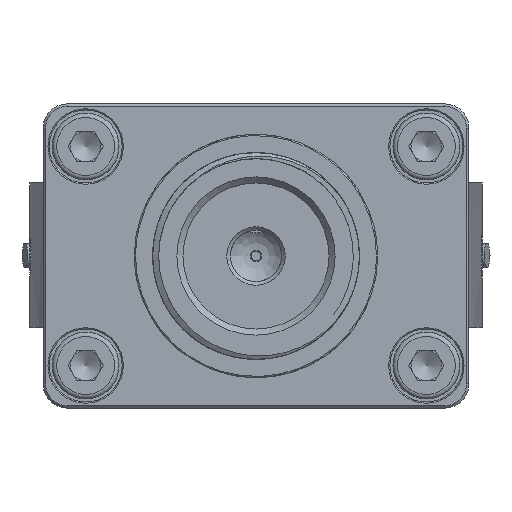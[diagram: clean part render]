
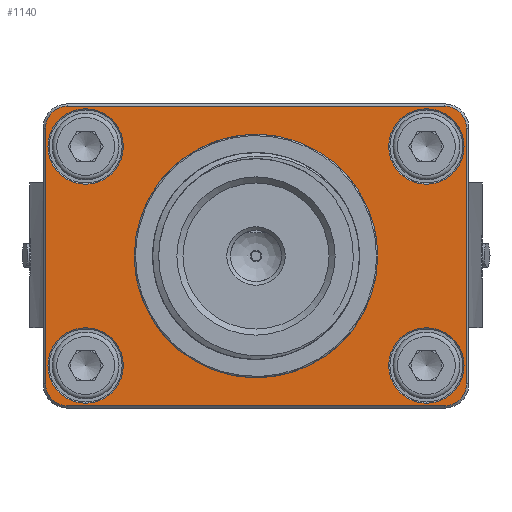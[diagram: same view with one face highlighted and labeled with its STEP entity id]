
A CAD part, front view. The second image highlights one B-rep face of the part: STEP entity #1140.
In plain terms, the highlighted planar face has unit normal (0, -1, 0).
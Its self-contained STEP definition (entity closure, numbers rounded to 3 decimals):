
#1140=ADVANCED_FACE('',(#1814,#1815,#1816,#1817,#1818,#1819),#1522,.T.);
#1522=PLANE('',#8598);
#1814=FACE_BOUND('',#2585,.T.);
#1815=FACE_BOUND('',#2586,.T.);
#1816=FACE_BOUND('',#2587,.T.);
#1817=FACE_BOUND('',#2588,.T.);
#1818=FACE_BOUND('',#2589,.T.);
#1819=FACE_BOUND('',#2590,.T.);
#2585=EDGE_LOOP('',(#4885,#4886,#4887,#4888,#4889,#4890,#4891,#4892));
#2586=EDGE_LOOP('',(#4893));
#2587=EDGE_LOOP('',(#4894));
#2588=EDGE_LOOP('',(#4895));
#2589=EDGE_LOOP('',(#4896));
#2590=EDGE_LOOP('',(#4897));
#3214=CIRCLE('',#8584,10.);
#3215=CIRCLE('',#8586,3.1);
#3216=CIRCLE('',#8588,3.1);
#3217=CIRCLE('',#8590,3.1);
#3218=CIRCLE('',#8592,3.1);
#3219=CIRCLE('',#8594,1.8);
#3220=CIRCLE('',#8595,1.8);
#3221=CIRCLE('',#8596,1.8);
#3222=CIRCLE('',#8597,1.8);
#4885=ORIENTED_EDGE('',*,*,#6849,.T.);
#4886=ORIENTED_EDGE('',*,*,#6850,.T.);
#4887=ORIENTED_EDGE('',*,*,#6851,.T.);
#4888=ORIENTED_EDGE('',*,*,#6852,.T.);
#4889=ORIENTED_EDGE('',*,*,#6853,.T.);
#4890=ORIENTED_EDGE('',*,*,#6854,.T.);
#4891=ORIENTED_EDGE('',*,*,#6855,.T.);
#4892=ORIENTED_EDGE('',*,*,#6856,.T.);
#4893=ORIENTED_EDGE('',*,*,#6848,.T.);
#4894=ORIENTED_EDGE('',*,*,#6847,.T.);
#4895=ORIENTED_EDGE('',*,*,#6846,.T.);
#4896=ORIENTED_EDGE('',*,*,#6845,.T.);
#4897=ORIENTED_EDGE('',*,*,#6844,.T.);
#5888=VERTEX_POINT('',#14850);
#5889=VERTEX_POINT('',#14853);
#5890=VERTEX_POINT('',#14856);
#5891=VERTEX_POINT('',#14859);
#5892=VERTEX_POINT('',#14862);
#5893=VERTEX_POINT('',#14865);
#5894=VERTEX_POINT('',#14866);
#5895=VERTEX_POINT('',#14868);
#5896=VERTEX_POINT('',#14870);
#5897=VERTEX_POINT('',#14872);
#5898=VERTEX_POINT('',#14874);
#5899=VERTEX_POINT('',#14876);
#5900=VERTEX_POINT('',#14878);
#6844=EDGE_CURVE('',#5888,#5888,#3214,.T.);
#6845=EDGE_CURVE('',#5889,#5889,#3215,.T.);
#6846=EDGE_CURVE('',#5890,#5890,#3216,.T.);
#6847=EDGE_CURVE('',#5891,#5891,#3217,.T.);
#6848=EDGE_CURVE('',#5892,#5892,#3218,.T.);
#6849=EDGE_CURVE('',#5893,#5894,#7483,.T.);
#6850=EDGE_CURVE('',#5894,#5895,#3219,.T.);
#6851=EDGE_CURVE('',#5895,#5896,#7484,.T.);
#6852=EDGE_CURVE('',#5896,#5897,#3220,.T.);
#6853=EDGE_CURVE('',#5897,#5898,#7485,.T.);
#6854=EDGE_CURVE('',#5898,#5899,#3221,.T.);
#6855=EDGE_CURVE('',#5899,#5900,#7486,.T.);
#6856=EDGE_CURVE('',#5900,#5893,#3222,.T.);
#7483=LINE('',#14864,#7923);
#7484=LINE('',#14869,#7924);
#7485=LINE('',#14873,#7925);
#7486=LINE('',#14877,#7926);
#7923=VECTOR('',#10608,1.);
#7924=VECTOR('',#10611,1.);
#7925=VECTOR('',#10614,1.);
#7926=VECTOR('',#10617,1.);
#8584=AXIS2_PLACEMENT_3D('',#14849,#10588,#10589);
#8586=AXIS2_PLACEMENT_3D('',#14852,#10592,#10593);
#8588=AXIS2_PLACEMENT_3D('',#14855,#10596,#10597);
#8590=AXIS2_PLACEMENT_3D('',#14858,#10600,#10601);
#8592=AXIS2_PLACEMENT_3D('',#14861,#10604,#10605);
#8594=AXIS2_PLACEMENT_3D('',#14867,#10609,#10610);
#8595=AXIS2_PLACEMENT_3D('',#14871,#10612,#10613);
#8596=AXIS2_PLACEMENT_3D('',#14875,#10615,#10616);
#8597=AXIS2_PLACEMENT_3D('',#14879,#10618,#10619);
#8598=AXIS2_PLACEMENT_3D('',#14880,#10620,#10621);
#10588=DIRECTION('',(0.,1.,0.));
#10589=DIRECTION('',(1.,0.,0.));
#10592=DIRECTION('',(0.,1.,0.));
#10593=DIRECTION('',(0.,0.,-1.));
#10596=DIRECTION('',(0.,1.,0.));
#10597=DIRECTION('',(0.,0.,-1.));
#10600=DIRECTION('',(0.,1.,0.));
#10601=DIRECTION('',(0.,0.,-1.));
#10604=DIRECTION('',(0.,1.,0.));
#10605=DIRECTION('',(0.,0.,-1.));
#10608=DIRECTION('',(-1.,0.,0.));
#10609=DIRECTION('',(0.,-1.,0.));
#10610=DIRECTION('',(0.,0.,-1.));
#10611=DIRECTION('',(0.,0.,-1.));
#10612=DIRECTION('',(0.,-1.,0.));
#10613=DIRECTION('',(0.,0.,-1.));
#10614=DIRECTION('',(1.,0.,0.));
#10615=DIRECTION('',(0.,-1.,0.));
#10616=DIRECTION('',(0.,0.,-1.));
#10617=DIRECTION('',(0.,0.,1.));
#10618=DIRECTION('',(0.,-1.,0.));
#10619=DIRECTION('',(0.,0.,-1.));
#10620=DIRECTION('',(0.,-1.,0.));
#10621=DIRECTION('',(-1.,0.,0.));
#14849=CARTESIAN_POINT('',(0.,-29.5,-12.5));
#14850=CARTESIAN_POINT('',(10.,-29.5,-12.5));
#14852=CARTESIAN_POINT('',(14.,-29.5,-21.5));
#14853=CARTESIAN_POINT('',(14.,-29.5,-24.6));
#14855=CARTESIAN_POINT('',(14.,-29.5,-3.5));
#14856=CARTESIAN_POINT('',(14.,-29.5,-6.6));
#14858=CARTESIAN_POINT('',(-14.,-29.5,-3.5));
#14859=CARTESIAN_POINT('',(-14.,-29.5,-6.6));
#14861=CARTESIAN_POINT('',(-14.,-29.5,-21.5));
#14862=CARTESIAN_POINT('',(-14.,-29.5,-24.6));
#14864=CARTESIAN_POINT('',(-14.,-29.5,-0.2));
#14865=CARTESIAN_POINT('',(15.5,-29.5,-0.2));
#14866=CARTESIAN_POINT('',(-15.5,-29.5,-0.2));
#14867=CARTESIAN_POINT('',(-15.5,-29.5,-2.));
#14868=CARTESIAN_POINT('',(-17.3,-29.5,-2.));
#14869=CARTESIAN_POINT('',(-17.3,-29.5,-21.5));
#14870=CARTESIAN_POINT('',(-17.3,-29.5,-23.));
#14871=CARTESIAN_POINT('',(-15.5,-29.5,-23.));
#14872=CARTESIAN_POINT('',(-15.5,-29.5,-24.8));
#14873=CARTESIAN_POINT('',(-14.,-29.5,-24.8));
#14874=CARTESIAN_POINT('',(15.5,-29.5,-24.8));
#14875=CARTESIAN_POINT('',(15.5,-29.5,-23.));
#14876=CARTESIAN_POINT('',(17.3,-29.5,-23.));
#14877=CARTESIAN_POINT('',(17.3,-29.5,-21.5));
#14878=CARTESIAN_POINT('',(17.3,-29.5,-2.));
#14879=CARTESIAN_POINT('',(15.5,-29.5,-2.));
#14880=CARTESIAN_POINT('',(-14.,-29.5,-21.5));
